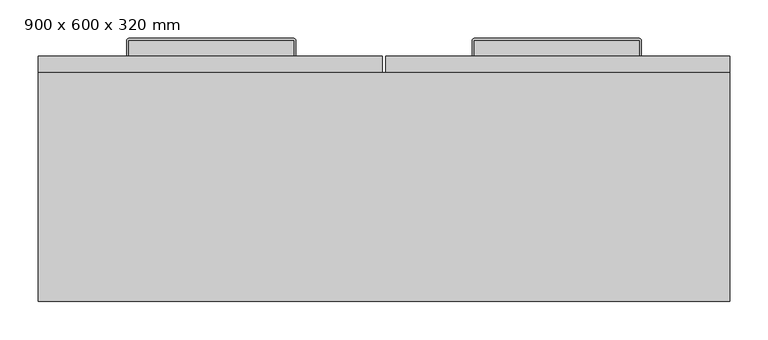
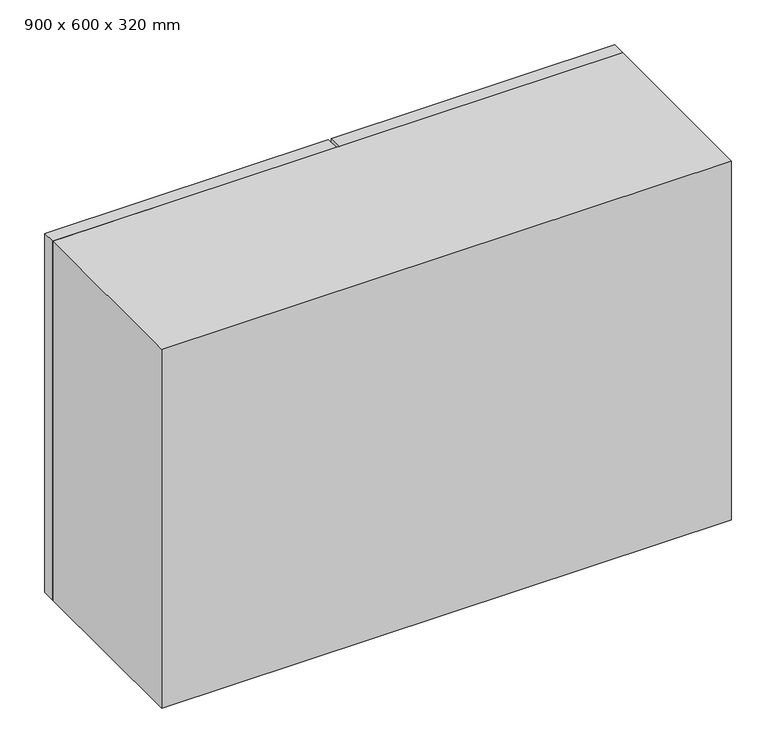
"""IFC4 building model written with IfcOpenShell, lengths in millimetres: furniture geometry, Armario superior - Puerta doble : 900 x 600 x 320 mm."""

import ifcopenshell
import ifcopenshell.guid

model = None  # the IFC model being written
_history = None  # IfcOwnerHistory: only IFC2X3 demands one
_inside = {}  # id of a spatial element -> (the spatial element, [elements in it])
_under = {}  # id of a project, library or spatial element -> (it, [spatial elements below it])
_declared = {}  # id of a project -> (the project, [libraries it declares])
_typed = {}  # id of a type object -> (the type object, [elements of that type])
_made_of = {}  # id of a material, layer set ... -> (it, [elements and type objects made of it])


def new_model(schema):
    """Start an empty IFC model of exactly this schema.

    Asked for "IFC4X3", IfcOpenShell would pick the latest addendum, in which some entities
    have other attributes; the version numbers below select the first issue.
    IFC2X3 requires an IfcOwnerHistory on every rooted entity: one is made here for all.
    """
    global model, _history
    if schema == "IFC4X3":
        model = ifcopenshell.file(schema_version=(4, 3, 0, 0))
    else:
        model = ifcopenshell.file(schema=schema)
    _inside.clear()
    _under.clear()
    _declared.clear()
    _typed.clear()
    _made_of.clear()
    _history = None
    if model.schema == "IFC2X3":
        org = make("IfcOrganization", Name="unknown")
        user = make(
            "IfcPersonAndOrganization",
            ThePerson=make("IfcPerson", FamilyName="unknown"),
            TheOrganization=org,
        )
        app = make(
            "IfcApplication",
            ApplicationDeveloper=org,
            Version="unknown",
            ApplicationFullName="unknown",
            ApplicationIdentifier="unknown",
        )
        _history = make(
            "IfcOwnerHistory",
            OwningUser=user,
            OwningApplication=app,
            ChangeAction="ADDED",
            CreationDate=0,
        )
    return model


def make(cls, **values):
    """One entity of the class cls with the attributes given. An attribute that is None is left unset."""
    return model.create_entity(
        cls, **{name: value for name, value in values.items() if value is not None}
    )


def rooted(cls, **values):
    """An entity with a GlobalId (a new one), such as an element, a storey or a relation."""
    return make(cls, GlobalId=ifcopenshell.guid.new(), OwnerHistory=_history, **values)


def si_unit(unit_type, name, prefix=None):
    """IfcSIUnit, for example si_unit("LENGTHUNIT", "METRE", prefix="MILLI")."""
    return make("IfcSIUnit", UnitType=unit_type, Prefix=prefix, Name=name)


def assignment(units):
    """IfcUnitAssignment: the units of a project."""
    return None if units is None else make("IfcUnitAssignment", Units=units)


def point(xyz):
    """IfcCartesianPoint."""
    return None if xyz is None else make("IfcCartesianPoint", Coordinates=xyz)


def direction(xyz):
    """IfcDirection."""
    return None if xyz is None else make("IfcDirection", DirectionRatios=xyz)


def frame(location, z_axis=None, x_axis=None):
    """IfcAxis2Placement3D, a coordinate frame: its origin and axes. An axis left out is left unset."""
    return make(
        "IfcAxis2Placement3D",
        Location=point(location),
        Axis=direction(z_axis),
        RefDirection=direction(x_axis),
    )


def frame_2d(location, x_axis=None):
    """IfcAxis2Placement2D, a coordinate frame in the plane: its origin and x axis."""
    return make(
        "IfcAxis2Placement2D", Location=point(location), RefDirection=direction(x_axis)
    )


def origin():
    """The frame at (0, 0, 0) with its axes left unset."""
    return frame((0.0, 0.0, 0.0))


def place(relative_to, where):
    """IfcLocalPlacement: puts the frame where relative to a parent placement (None: the world)."""
    return make(
        "IfcLocalPlacement", PlacementRelTo=relative_to, RelativePlacement=where
    )


def context(
    kind, dimensions, precision=None, world=None, true_north=None, identifier=None
):
    """IfcGeometricRepresentationContext, for example the 3D "Model" context."""
    return make(
        "IfcGeometricRepresentationContext",
        ContextIdentifier=identifier,
        ContextType=kind,
        CoordinateSpaceDimension=dimensions,
        Precision=precision,
        WorldCoordinateSystem=world,
        TrueNorth=true_north,
    )


def project(units=None, contexts=None):
    """IfcProject with its units and contexts."""
    return rooted(
        "IfcProject",
        Name="project",
        RepresentationContexts=contexts,
        UnitsInContext=assignment(units),
    )


def spatial(cls, under=None, at=None, **own):
    """A site, building, storey or space (cls), placed at a placement, below another one or the project."""
    s = rooted(cls, ObjectPlacement=at, **own)
    if under is not None:
        _under.setdefault(under.id(), (under, []))[1].append(s)
    return s


def polyline(points):
    """IfcPolyline through the points."""
    return make("IfcPolyline", Points=[point(p) for p in points])


def circle_curve(where, radius):
    """IfcCircle in the frame where."""
    return make("IfcCircle", Position=where, Radius=radius)


def trimmed(basis, trim1, trim2, sense, master):
    """IfcTrimmedCurve: the piece of a basis curve between two trims."""
    return make(
        "IfcTrimmedCurve",
        BasisCurve=basis,
        Trim1=trim1,
        Trim2=trim2,
        SenseAgreement=sense,
        MasterRepresentation=master,
    )


def segment(curve, same_sense, transition):
    """IfcCompositeCurveSegment."""
    return make(
        "IfcCompositeCurveSegment",
        Transition=transition,
        SameSense=same_sense,
        ParentCurve=curve,
    )


def composite_curve(segments, self_intersect=None):
    """IfcCompositeCurve: segments joined end to end."""
    return make("IfcCompositeCurve", Segments=segments, SelfIntersect=self_intersect)


def outline(outer, holes=None, kind="AREA"):
    """IfcArbitraryClosedProfileDef: a profile drawn as a closed curve; with holes, ...WithVoids."""
    if holes is None:
        return make("IfcArbitraryClosedProfileDef", ProfileType=kind, OuterCurve=outer)
    return make(
        "IfcArbitraryProfileDefWithVoids",
        ProfileType=kind,
        OuterCurve=outer,
        InnerCurves=holes,
    )


def extrude(swept, where, along, depth):
    """IfcExtrudedAreaSolid: the profile swept, set in the frame where, extruded along a direction by depth."""
    return make(
        "IfcExtrudedAreaSolid",
        SweptArea=swept,
        Position=where,
        ExtrudedDirection=direction(along),
        Depth=depth,
    )


def faces_of(points, faces, orient=None, outer=None):
    """IfcFace entities. A face is a list of loops; a loop is a list of indices into points, from 0.

    orient and outer hold one flag for each loop. By default every Orientation is true, the
    first loop of a face is its IfcFaceOuterBound and the others are IfcFaceBound.
    """
    made = []
    for i, loops in enumerate(faces):
        bounds = []
        for j, loop in enumerate(loops):
            is_outer = j == 0 if outer is None else outer[i][j]
            bounds.append(
                make(
                    "IfcFaceOuterBound" if is_outer else "IfcFaceBound",
                    Bound=make("IfcPolyLoop", Polygon=[points[k] for k in loop]),
                    Orientation=True if orient is None else orient[i][j],
                )
            )
        made.append(make("IfcFace", Bounds=bounds))
    return made


def faceted_brep(points, faces, orient=None, outer=None, voids=None):
    """IfcFacetedBrep: a solid bounded by flat faces; with voids (closed shells), ...WithVoids."""
    shared = [point(p) for p in points]
    hull = make("IfcClosedShell", CfsFaces=faces_of(shared, faces, orient, outer))
    if voids is None:
        return make("IfcFacetedBrep", Outer=hull)
    return make(
        "IfcFacetedBrepWithVoids",
        Outer=hull,
        Voids=[
            make(cls, CfsFaces=faces_of(shared, fs, o, b)) for cls, fs, o, b in voids
        ],
    )


def shape(context_of_items, identifier, shape_type, items):
    """IfcShapeRepresentation: the items that make up one representation, for example the "Body"."""
    return make(
        "IfcShapeRepresentation",
        ContextOfItems=context_of_items,
        RepresentationIdentifier=identifier,
        RepresentationType=shape_type,
        Items=items,
    )


def source(mapping_origin, context_of_items, identifier, shape_type, items):
    """IfcRepresentationMap: a shape defined once, which mapped items show again and again."""
    return make(
        "IfcRepresentationMap",
        MappingOrigin=mapping_origin,
        MappedRepresentation=shape(context_of_items, identifier, shape_type, items),
    )


def transform(
    local_origin,
    x_axis=None,
    y_axis=None,
    z_axis=None,
    scale=None,
    scale2=None,
    scale3=None,
    uniform=True,
):
    """IfcCartesianTransformationOperator3D, or its non-uniform kind. x_axis, y_axis, z_axis: its Axis1, 2, 3."""
    if uniform:
        return make(
            "IfcCartesianTransformationOperator3D",
            Axis1=direction(x_axis),
            Axis2=direction(y_axis),
            LocalOrigin=point(local_origin),
            Scale=scale,
            Axis3=direction(z_axis),
        )
    return make(
        "IfcCartesianTransformationOperator3DnonUniform",
        Axis1=direction(x_axis),
        Axis2=direction(y_axis),
        LocalOrigin=point(local_origin),
        Scale=scale,
        Axis3=direction(z_axis),
        Scale2=scale2,
        Scale3=scale3,
    )


def mapped(mapping_source, mapping_target):
    """IfcMappedItem: shows the shape of a source again, moved by a transform."""
    return make(
        "IfcMappedItem", MappingSource=mapping_source, MappingTarget=mapping_target
    )


def made_of(thing, what):
    """Note that an element or type object is made of a material, layer set ...; save() writes the relation."""
    if what is not None:
        _made_of.setdefault(what.id(), (what, []))[1].append(thing)
    return thing


def element(
    cls,
    number,
    at=None,
    inside=None,
    cuts=None,
    type_object=None,
    material=None,
    context=None,
    identifier="Body",
    shape_type=None,
    held_by="IfcProductDefinitionShape",
    body=None,
    shapes=None,
    **own,
):
    """One element of the class cls, such as IfcWall. Its Tag is "e" and its number.

    at: its placement. inside: the storey or other place that contains it. cuts: it is an
    opening in that element (IfcRelVoidsElement). A single representation is given by context,
    identifier, shape_type and body (its items); several are given by shapes. held_by: the class
    of the entity that holds the representations. save() writes the other relations.
    """
    e = rooted(cls, Tag="e%d" % number, ObjectPlacement=at, **own)
    if body is not None:
        shapes = [shape(context, identifier, shape_type, body)]
    if shapes is not None:
        e.Representation = make(held_by, Representations=shapes)
    if inside is not None:
        _inside.setdefault(inside.id(), (inside, []))[1].append(e)
    if cuts is not None:
        rooted(
            "IfcRelVoidsElement", RelatingBuildingElement=cuts, RelatedOpeningElement=e
        )
    if type_object is not None:
        _typed.setdefault(type_object.id(), (type_object, []))[1].append(e)
    return made_of(e, material)


def aggregate(whole, parts):
    """IfcRelAggregates: a whole, such as a stair, and the parts it consists of."""
    return rooted("IfcRelAggregates", RelatingObject=whole, RelatedObjects=parts)


def save(model, path):
    """Write the relations noted so far, then the file.

    IfcRelAggregates (storeys below a building ...), IfcRelContainedInSpatialStructure (elements
    in a storey), IfcRelDefinesByType, IfcRelAssociatesMaterial and IfcRelDeclares: one each for
    every whole, place, type object, material and project.
    """
    for whole, parts in _under.values():
        aggregate(whole, parts)
    for where, things in _inside.values():
        rooted(
            "IfcRelContainedInSpatialStructure",
            RelatedElements=things,
            RelatingStructure=where,
        )
    for kind, things in _typed.values():
        rooted("IfcRelDefinesByType", RelatedObjects=things, RelatingType=kind)
    for what, things in _made_of.values():
        rooted("IfcRelAssociatesMaterial", RelatedObjects=things, RelatingMaterial=what)
    for by, libraries in _declared.values():
        rooted("IfcRelDeclares", RelatingContext=by, RelatedDefinitions=libraries)
    model.write(path)


def furniture_900_x_600_x_320_mm_fdf49008(model_context):
    return source(origin(), model_context, "Body", "SolidModel", [
        extrude(outline(composite_curve([segment(polyline([(-158.0, 330.0), (-158.0, 350.5)]), True, "CONTINUOUS"), segment(trimmed(circle_curve(frame_2d((-157.5, 350.5)), 0.5), [point((-158.0, 350.5))], [point((-157.5, 351.0))], False, "CARTESIAN"), True, "CONTINUOUS"), segment(polyline([(-157.5, 351.0), (57.5, 351.0)]), True, "CONTINUOUS"), segment(trimmed(circle_curve(frame_2d((57.5, 350.5)), 0.5), [point((57.5, 351.0))], [point((58.0, 350.5))], False, "CARTESIAN"), True, "CONTINUOUS"), segment(polyline([(58.0, 350.5), (58.0, 330.0), (-158.0, 330.0)]), True, "CONTINUOUS")], self_intersect=False)), frame((0.0, 0.0, 1449.765389), z_axis=(0.0, 0.0, 1.0), x_axis=(1.0, 0.0, 0.0)), (0.0, 0.0, 1.0), 6.4890959),
        extrude(outline(composite_curve([segment(polyline([(-160.0, 330.0), (-160.0, 350.5)]), True, "CONTINUOUS"), segment(trimmed(circle_curve(frame_2d((-157.5, 350.5)), 2.5), [point((-160.0, 350.5))], [point((-157.5, 353.0))], False, "CARTESIAN"), True, "CONTINUOUS"), segment(polyline([(-157.5, 353.0), (57.5, 353.0)]), True, "CONTINUOUS"), segment(trimmed(circle_curve(frame_2d((57.5, 350.5)), 2.5), [point((57.5, 353.0))], [point((60.0, 350.5))], False, "CARTESIAN"), True, "CONTINUOUS"), segment(polyline([(60.0, 350.5), (60.0, 330.0), (58.0, 330.0), (58.0, 350.5)]), True, "CONTINUOUS"), segment(trimmed(circle_curve(frame_2d((57.5, 350.5)), 0.5), [point((58.0, 350.5))], [point((57.5, 351.0))], True, "CARTESIAN"), True, "CONTINUOUS"), segment(polyline([(57.5, 351.0), (-157.5, 351.0)]), True, "CONTINUOUS"), segment(trimmed(circle_curve(frame_2d((-157.5, 350.5)), 0.5), [point((-157.5, 351.0))], [point((-158.0, 350.5))], True, "CARTESIAN"), True, "CONTINUOUS"), segment(polyline([(-158.0, 350.5), (-158.0, 330.0), (-160.0, 330.0)]), True, "CONTINUOUS")], self_intersect=False)), frame((0.0, 0.0, 1447.0), z_axis=(0.0, 0.0, 1.0), x_axis=(1.0, 0.0, 0.0)), (0.0, 0.0, 1.0), 12.0),
        extrude(outline(composite_curve([segment(polyline([(292.0, 330.0), (292.0, 350.5)]), True, "CONTINUOUS"), segment(trimmed(circle_curve(frame_2d((292.5, 350.5)), 0.5), [point((292.0, 350.5))], [point((292.5, 351.0))], False, "CARTESIAN"), True, "CONTINUOUS"), segment(polyline([(292.5, 351.0), (507.5, 351.0)]), True, "CONTINUOUS"), segment(trimmed(circle_curve(frame_2d((507.5, 350.5)), 0.5), [point((507.5, 351.0))], [point((508.0, 350.5))], False, "CARTESIAN"), True, "CONTINUOUS"), segment(polyline([(508.0, 350.5), (508.0, 330.0), (292.0, 330.0)]), True, "CONTINUOUS")], self_intersect=False)), frame((0.0, 0.0, 1449.765389), z_axis=(0.0, 0.0, 1.0), x_axis=(1.0, 0.0, 0.0)), (0.0, 0.0, 1.0), 6.4890959),
        extrude(outline(composite_curve([segment(polyline([(290.0, 330.0), (290.0, 350.5)]), True, "CONTINUOUS"), segment(trimmed(circle_curve(frame_2d((292.5, 350.5)), 2.5), [point((290.0, 350.5))], [point((292.5, 353.0))], False, "CARTESIAN"), True, "CONTINUOUS"), segment(polyline([(292.5, 353.0), (507.5, 353.0)]), True, "CONTINUOUS"), segment(trimmed(circle_curve(frame_2d((507.5, 350.5)), 2.5), [point((507.5, 353.0))], [point((510.0, 350.5))], False, "CARTESIAN"), True, "CONTINUOUS"), segment(polyline([(510.0, 350.5), (510.0, 330.0), (508.0, 330.0), (508.0, 350.5)]), True, "CONTINUOUS"), segment(trimmed(circle_curve(frame_2d((507.5, 350.5)), 0.5), [point((508.0, 350.5))], [point((507.5, 351.0))], True, "CARTESIAN"), True, "CONTINUOUS"), segment(polyline([(507.5, 351.0), (292.5, 351.0)]), True, "CONTINUOUS"), segment(trimmed(circle_curve(frame_2d((292.5, 350.5)), 0.5), [point((292.5, 351.0))], [point((292.0, 350.5))], True, "CARTESIAN"), True, "CONTINUOUS"), segment(polyline([(292.0, 350.5), (292.0, 330.0), (290.0, 330.0)]), True, "CONTINUOUS")], self_intersect=False)), frame((0.0, 0.0, 1447.0), z_axis=(0.0, 0.0, 1.0), x_axis=(1.0, 0.0, 0.0)), (0.0, 0.0, 1.0), 12.0),
        faceted_brep([(603.0, 308.0, 1422.0), (-253.0, 308.0, 1422.0), (-253.0, 32.0, 1422.0), (603.0, 32.0, 1422.0), (625.0, 308.0, 1400.0), (625.0, 10.0, 1400.0), (-275.0, 10.0, 1400.0), (-275.0, 308.0, 1400.0), (-275.0, 308.0, 2000.0), (625.0, 308.0, 2000.0), (603.0, 308.0, 1978.0), (-253.0, 308.0, 1978.0), (-275.0, 10.0, 2000.0), (625.0, 10.0, 2000.0), (603.0, 32.0, 1978.0), (-253.0, 32.0, 1978.0)], [[[0, 1, 2, 3]], [[4, 5, 6, 7]], [[8, 9, 4, 7], [0, 10, 11, 1]], [[8, 7, 6, 12]], [[12, 6, 5, 13]], [[13, 5, 4, 9]], [[10, 0, 3, 14]], [[14, 3, 2, 15]], [[1, 11, 15, 2]], [[9, 8, 12, 13]], [[11, 10, 14, 15]]]),
        extrude(outline(polyline([(177.0, 330.0), (625.0, 330.0), (625.0, 308.0), (177.0, 308.0), (177.0, 330.0)])), frame((0.0, 0.0, 1400.0), z_axis=(0.0, 0.0, 1.0), x_axis=(1.0, 0.0, 0.0)), (0.0, 0.0, 1.0), 600.0),
        extrude(outline(polyline([(-275.0, 330.0), (173.0, 330.0), (173.0, 308.0), (-275.0, 308.0), (-275.0, 330.0)])), frame((0.0, 0.0, 1400.0), z_axis=(0.0, 0.0, 1.0), x_axis=(1.0, 0.0, 0.0)), (0.0, 0.0, 1.0), 600.0),
    ])


if __name__ == "__main__":
    model = new_model("IFC4")
    model_context = context("Model", 3, world=origin())
    ifc_project = project(units=[si_unit("LENGTHUNIT", "METRE", prefix="MILLI")], contexts=[model_context])
    site = spatial("IfcSite", under=ifc_project)
    building = spatial("IfcBuilding", under=site)
    placement = place(None, origin())
    furniture_900_x_600_x_320_mm_shape = furniture_900_x_600_x_320_mm_fdf49008(model_context)
    element("IfcFurniture", 1, ObjectType="Armario superior - Puerta doble : 900 x 600 x 320 mm", at=placement, inside=building, context=model_context, shape_type="MappedRepresentation", body=[
        mapped(furniture_900_x_600_x_320_mm_shape, transform((0.0, 0.0, 0.0), x_axis=(1.0, 0.0, 0.0), y_axis=(0.0, 1.0, 0.0), z_axis=(0.0, 0.0, 1.0))),
    ])
    save(model, "model.ifc")
